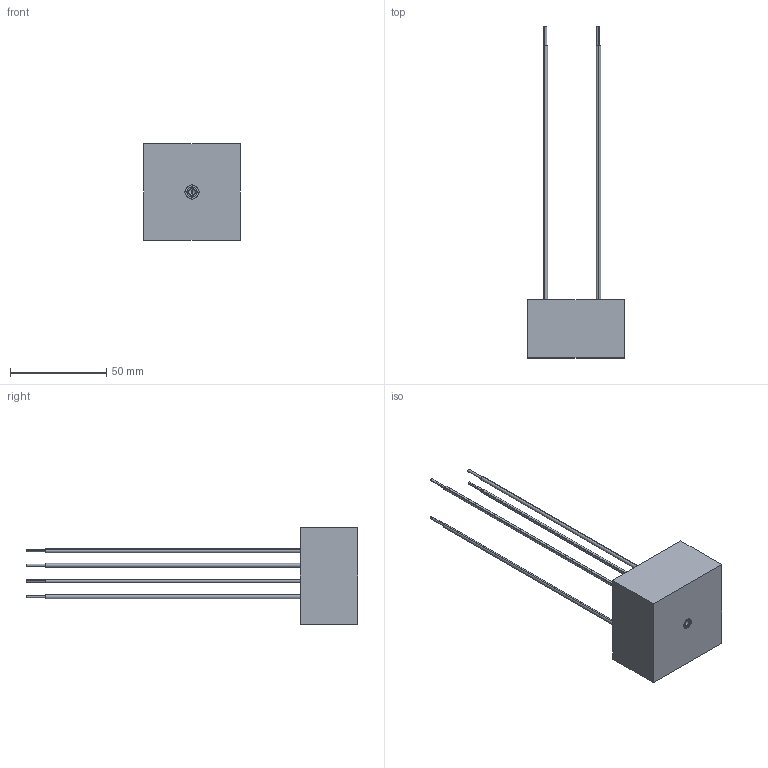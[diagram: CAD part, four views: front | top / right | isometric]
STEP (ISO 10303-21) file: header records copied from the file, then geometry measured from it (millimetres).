
FILE_DESCRIPTION (( 'STEP AP214' ), '1' );
FILE_NAME ('C210.STEP', '2015-09-21T09:33:05', ( '' ), ( '' ), 'SwSTEP 2.0', 'SolidWorks 2014', '' );
FILE_SCHEMA (( 'AUTOMOTIVE_DESIGN' ));
Length unit declared in the file: millimetre
Products named in the file (9): C210; SLV09; SLV08; SLV07; SLV06; 150mm COP273; FIX31_PEM B-M4-1 ZI--N; BOX03 Potting; BOX03
Assembly tree (11 placements, depth 2):
  C210
    BOX03
    BOX03 Potting
    FIX31_PEM B-M4-1 ZI--N
    150mm COP273  x4
    SLV06
    SLV07
    SLV08
    SLV09
Bounding box: 50 x 172 x 50 mm (x, y, z)
Volume: 75692.2 mm3; surface area: 35555.7 mm2
Topology: 11 solids, 11 shells, 152 faces, 346 edges, 225 vertices
Faces by surface type: plane 91, cylinder 50, cone 10, bspline 1
Entity records: 4509 total; most frequent: DIRECTION 676, CARTESIAN_POINT 669, ORIENTED_EDGE 616, EDGE_CURVE 308, LINE 228, VECTOR 228, AXIS2_PLACEMENT_3D 224, VERTEX_POINT 201
